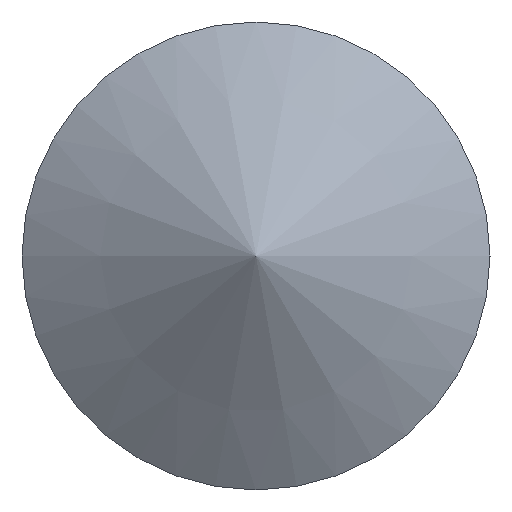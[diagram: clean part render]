
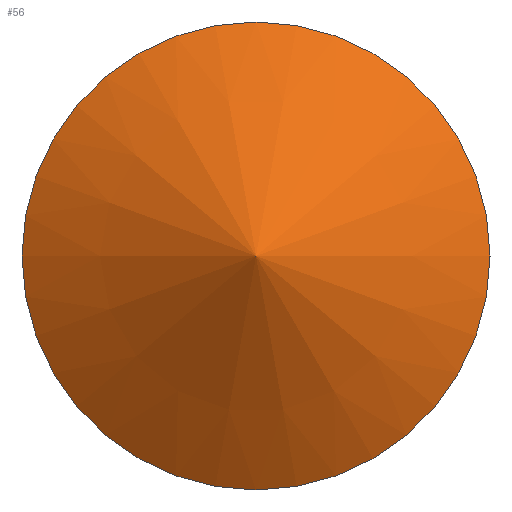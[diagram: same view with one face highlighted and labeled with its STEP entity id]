
A CAD part, left-side view. The second image highlights one B-rep face of the part: STEP entity #56.
In plain terms, the highlighted conical face has half-angle 59 degrees and reference radius 1.25 mm.
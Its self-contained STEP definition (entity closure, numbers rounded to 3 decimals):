
#16=LINE('',#115,#18);
#18=VECTOR('',#99,1.25);
#20=CONICAL_SURFACE('',#81,1.25,1.03);
#22=FACE_OUTER_BOUND('',#25,.T.);
#25=EDGE_LOOP('',(#44,#45,#46,#47));
#29=CIRCLE('',#82,2.5);
#30=CIRCLE('',#83,2.5);
#33=VERTEX_POINT('',#110);
#34=VERTEX_POINT('',#111);
#35=VERTEX_POINT('',#114);
#38=EDGE_CURVE('',#33,#34,#29,.T.);
#39=EDGE_CURVE('',#34,#33,#30,.T.);
#40=EDGE_CURVE('',#34,#35,#16,.T.);
#44=ORIENTED_EDGE('',*,*,#38,.F.);
#45=ORIENTED_EDGE('',*,*,#39,.F.);
#46=ORIENTED_EDGE('',*,*,#40,.T.);
#47=ORIENTED_EDGE('',*,*,#40,.F.);
#56=ADVANCED_FACE('',(#22),#20,.T.);
#81=AXIS2_PLACEMENT_3D('',#109,#93,#94);
#82=AXIS2_PLACEMENT_3D('',#112,#95,#96);
#83=AXIS2_PLACEMENT_3D('',#113,#97,#98);
#93=DIRECTION('center_axis',(1.,0.,0.));
#94=DIRECTION('ref_axis',(0.,1.,0.));
#95=DIRECTION('center_axis',(1.,0.,0.));
#96=DIRECTION('ref_axis',(0.,0.,-1.));
#97=DIRECTION('center_axis',(1.,0.,0.));
#98=DIRECTION('ref_axis',(0.,0.,-1.));
#99=DIRECTION('',(-0.515,0.857,0.));
#109=CARTESIAN_POINT('Origin',(-8.751,0.,
0.));
#110=CARTESIAN_POINT('',(-8.,2.5,0.));
#111=CARTESIAN_POINT('',(-8.,-2.5,0.));
#112=CARTESIAN_POINT('Origin',(-8.,0.,0.));
#113=CARTESIAN_POINT('Origin',(-8.,0.,0.));
#114=CARTESIAN_POINT('',(-9.502,0.,0.));
#115=CARTESIAN_POINT('',(-8.751,-1.25,0.));
